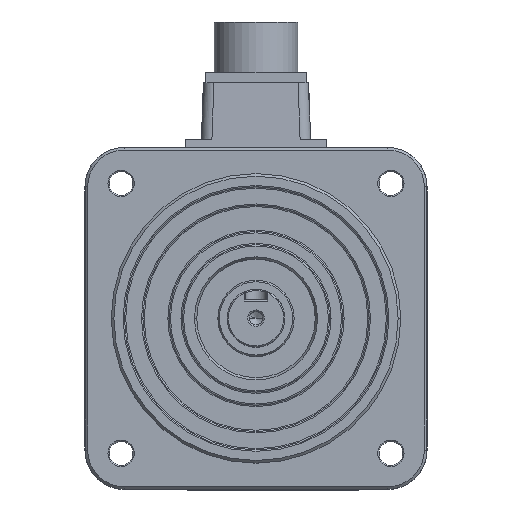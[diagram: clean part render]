
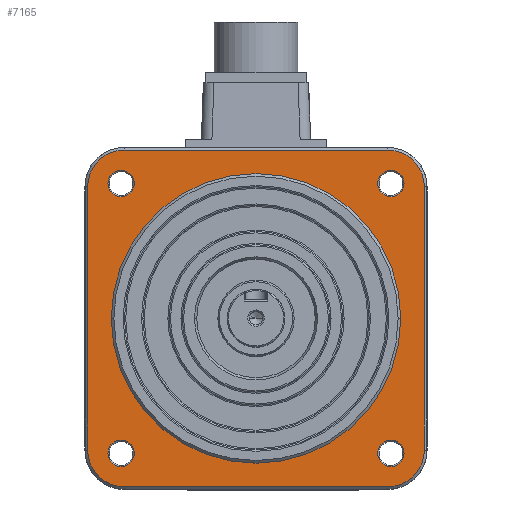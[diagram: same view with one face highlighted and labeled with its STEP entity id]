
A CAD part, top view. The second image highlights one B-rep face of the part: STEP entity #7165.
In plain terms, the highlighted planar face has unit normal (0, 0, 1).
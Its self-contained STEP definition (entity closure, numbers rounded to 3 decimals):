
#98=CARTESIAN_POINT('',(50.,50.,25.));
#99=DIRECTION('',(0.,0.,-1.));
#100=DIRECTION('',(0.,1.,0.));
#101=AXIS2_PLACEMENT_3D('',#98,#99,#100);
#103=CARTESIAN_POINT('',(50.,-50.,25.));
#104=DIRECTION('',(0.,0.,-1.));
#105=DIRECTION('',(1.,0.,0.));
#106=AXIS2_PLACEMENT_3D('',#103,#104,#105);
#108=CARTESIAN_POINT('',(-50.,-50.,25.));
#109=DIRECTION('',(0.,0.,-1.));
#110=DIRECTION('',(0.,-1.,0.));
#111=AXIS2_PLACEMENT_3D('',#108,#109,#110);
#113=CARTESIAN_POINT('',(-50.,50.,25.));
#114=DIRECTION('',(0.,0.,-1.));
#115=DIRECTION('',(-1.,0.,0.));
#116=AXIS2_PLACEMENT_3D('',#113,#114,#115);
#118=CARTESIAN_POINT('',(0.,0.,25.));
#119=DIRECTION('',(0.,0.,1.));
#120=DIRECTION('',(-1.,0.,0.));
#121=AXIS2_PLACEMENT_3D('',#118,#119,#120);
#123=CARTESIAN_POINT('',(0.,0.,25.));
#124=DIRECTION('',(0.,0.,1.));
#125=DIRECTION('',(1.,0.,0.));
#126=AXIS2_PLACEMENT_3D('',#123,#124,#125);
#128=CARTESIAN_POINT('',(-51.265,51.265,25.));
#129=DIRECTION('',(0.,0.,1.));
#130=DIRECTION('',(1.,0.,0.));
#131=AXIS2_PLACEMENT_3D('',#128,#129,#130);
#133=CARTESIAN_POINT('',(-51.265,51.265,25.));
#134=DIRECTION('',(0.,0.,1.));
#135=DIRECTION('',(-1.,0.,0.));
#136=AXIS2_PLACEMENT_3D('',#133,#134,#135);
#138=CARTESIAN_POINT('',(-51.265,-51.265,25.));
#139=DIRECTION('',(0.,0.,1.));
#140=DIRECTION('',(1.,0.,0.));
#141=AXIS2_PLACEMENT_3D('',#138,#139,#140);
#143=CARTESIAN_POINT('',(-51.265,-51.265,25.));
#144=DIRECTION('',(0.,0.,1.));
#145=DIRECTION('',(-1.,0.,0.));
#146=AXIS2_PLACEMENT_3D('',#143,#144,#145);
#148=CARTESIAN_POINT('',(51.265,-51.265,25.));
#149=DIRECTION('',(0.,0.,1.));
#150=DIRECTION('',(1.,0.,0.));
#151=AXIS2_PLACEMENT_3D('',#148,#149,#150);
#153=CARTESIAN_POINT('',(51.265,-51.265,25.));
#154=DIRECTION('',(0.,0.,1.));
#155=DIRECTION('',(-1.,0.,0.));
#156=AXIS2_PLACEMENT_3D('',#153,#154,#155);
#158=CARTESIAN_POINT('',(51.265,51.265,25.));
#159=DIRECTION('',(0.,0.,1.));
#160=DIRECTION('',(1.,0.,0.));
#161=AXIS2_PLACEMENT_3D('',#158,#159,#160);
#163=CARTESIAN_POINT('',(51.265,51.265,25.));
#164=DIRECTION('',(0.,0.,1.));
#165=DIRECTION('',(-1.,0.,0.));
#166=AXIS2_PLACEMENT_3D('',#163,#164,#165);
#350=DIRECTION('',(-1.,0.,0.));
#351=VECTOR('',#350,100.);
#352=CARTESIAN_POINT('',(50.,63.969,25.));
#353=LINE('',#352,#351);
#502=DIRECTION('',(0.,-1.,0.));
#503=VECTOR('',#502,100.);
#504=CARTESIAN_POINT('',(-63.969,50.,25.));
#505=LINE('',#504,#503);
#700=DIRECTION('',(1.,0.,0.));
#701=VECTOR('',#700,100.);
#702=CARTESIAN_POINT('',(-50.,-63.969,25.));
#703=LINE('',#702,#701);
#906=DIRECTION('',(0.,1.,0.));
#907=VECTOR('',#906,100.);
#908=CARTESIAN_POINT('',(63.969,-50.,25.));
#909=LINE('',#908,#907);
#5584=CARTESIAN_POINT('',(55.,0.,25.));
#5585=VERTEX_POINT('',#5584);
#5586=CARTESIAN_POINT('',(-55.,0.,25.));
#5587=VERTEX_POINT('',#5586);
#5588=CARTESIAN_POINT('',(50.,63.969,25.));
#5589=CARTESIAN_POINT('',(63.969,50.,25.));
#5590=VERTEX_POINT('',#5588);
#5591=VERTEX_POINT('',#5589);
#5592=CARTESIAN_POINT('',(63.969,-50.,25.));
#5593=CARTESIAN_POINT('',(50.,-63.969,25.));
#5594=VERTEX_POINT('',#5592);
#5595=VERTEX_POINT('',#5593);
#5596=CARTESIAN_POINT('',(-50.,-63.969,25.));
#5597=CARTESIAN_POINT('',(-63.969,-50.,25.));
#5598=VERTEX_POINT('',#5596);
#5599=VERTEX_POINT('',#5597);
#5600=CARTESIAN_POINT('',(-63.969,50.,25.));
#5601=CARTESIAN_POINT('',(-50.,63.969,25.));
#5602=VERTEX_POINT('',#5600);
#5603=VERTEX_POINT('',#5601);
#5604=CARTESIAN_POINT('',(-46.265,51.265,25.));
#5605=CARTESIAN_POINT('',(-56.265,51.265,25.));
#5606=VERTEX_POINT('',#5604);
#5607=VERTEX_POINT('',#5605);
#5608=CARTESIAN_POINT('',(-46.265,-51.265,25.));
#5609=CARTESIAN_POINT('',(-56.265,-51.265,25.));
#5610=VERTEX_POINT('',#5608);
#5611=VERTEX_POINT('',#5609);
#5612=CARTESIAN_POINT('',(56.265,-51.265,25.));
#5613=CARTESIAN_POINT('',(46.265,-51.265,25.));
#5614=VERTEX_POINT('',#5612);
#5615=VERTEX_POINT('',#5613);
#5616=CARTESIAN_POINT('',(56.265,51.265,25.));
#5617=CARTESIAN_POINT('',(46.265,51.265,25.));
#5618=VERTEX_POINT('',#5616);
#5619=VERTEX_POINT('',#5617);
#7114=CARTESIAN_POINT('',(0.,0.,25.));
#7115=DIRECTION('',(0.,0.,1.));
#7116=DIRECTION('',(1.,0.,0.));
#7117=AXIS2_PLACEMENT_3D('',#7114,#7115,#7116);
#7118=PLANE('',#7117);
#7120=ORIENTED_EDGE('',*,*,#7119,.T.);
#7122=ORIENTED_EDGE('',*,*,#7121,.F.);
#7124=ORIENTED_EDGE('',*,*,#7123,.T.);
#7126=ORIENTED_EDGE('',*,*,#7125,.F.);
#7128=ORIENTED_EDGE('',*,*,#7127,.T.);
#7130=ORIENTED_EDGE('',*,*,#7129,.F.);
#7132=ORIENTED_EDGE('',*,*,#7131,.T.);
#7134=ORIENTED_EDGE('',*,*,#7133,.F.);
#7135=EDGE_LOOP('',(#7120,#7122,#7124,#7126,#7128,#7130,#7132,#7134));
#7136=FACE_OUTER_BOUND('',#7135,.F.);
#7137=ORIENTED_EDGE('',*,*,#7107,.T.);
#7138=ORIENTED_EDGE('',*,*,#7096,.T.);
#7139=EDGE_LOOP('',(#7137,#7138));
#7140=FACE_BOUND('',#7139,.F.);
#7142=ORIENTED_EDGE('',*,*,#7141,.T.);
#7144=ORIENTED_EDGE('',*,*,#7143,.T.);
#7145=EDGE_LOOP('',(#7142,#7144));
#7146=FACE_BOUND('',#7145,.F.);
#7148=ORIENTED_EDGE('',*,*,#7147,.T.);
#7150=ORIENTED_EDGE('',*,*,#7149,.T.);
#7151=EDGE_LOOP('',(#7148,#7150));
#7152=FACE_BOUND('',#7151,.F.);
#7154=ORIENTED_EDGE('',*,*,#7153,.T.);
#7156=ORIENTED_EDGE('',*,*,#7155,.T.);
#7157=EDGE_LOOP('',(#7154,#7156));
#7158=FACE_BOUND('',#7157,.F.);
#7160=ORIENTED_EDGE('',*,*,#7159,.T.);
#7162=ORIENTED_EDGE('',*,*,#7161,.T.);
#7163=EDGE_LOOP('',(#7160,#7162));
#7164=FACE_BOUND('',#7163,.F.);
#102=CIRCLE('',#101,13.969);
#107=CIRCLE('',#106,13.969);
#112=CIRCLE('',#111,13.969);
#117=CIRCLE('',#116,13.969);
#122=CIRCLE('',#121,55.);
#127=CIRCLE('',#126,55.);
#132=CIRCLE('',#131,5.);
#137=CIRCLE('',#136,5.);
#142=CIRCLE('',#141,5.);
#147=CIRCLE('',#146,5.);
#152=CIRCLE('',#151,5.);
#157=CIRCLE('',#156,5.);
#162=CIRCLE('',#161,5.);
#167=CIRCLE('',#166,5.);
#7096=EDGE_CURVE('',#5585,#5587,#127,.T.);
#7107=EDGE_CURVE('',#5587,#5585,#122,.T.);
#7119=EDGE_CURVE('',#5590,#5591,#102,.T.);
#7121=EDGE_CURVE('',#5594,#5591,#909,.T.);
#7123=EDGE_CURVE('',#5594,#5595,#107,.T.);
#7125=EDGE_CURVE('',#5598,#5595,#703,.T.);
#7127=EDGE_CURVE('',#5598,#5599,#112,.T.);
#7129=EDGE_CURVE('',#5602,#5599,#505,.T.);
#7131=EDGE_CURVE('',#5602,#5603,#117,.T.);
#7133=EDGE_CURVE('',#5590,#5603,#353,.T.);
#7141=EDGE_CURVE('',#5606,#5607,#132,.T.);
#7143=EDGE_CURVE('',#5607,#5606,#137,.T.);
#7147=EDGE_CURVE('',#5610,#5611,#142,.T.);
#7149=EDGE_CURVE('',#5611,#5610,#147,.T.);
#7153=EDGE_CURVE('',#5614,#5615,#152,.T.);
#7155=EDGE_CURVE('',#5615,#5614,#157,.T.);
#7159=EDGE_CURVE('',#5618,#5619,#162,.T.);
#7161=EDGE_CURVE('',#5619,#5618,#167,.T.);
#7165=ADVANCED_FACE('',(#7136,#7140,#7146,#7152,#7158,#7164),#7118,.T.);
